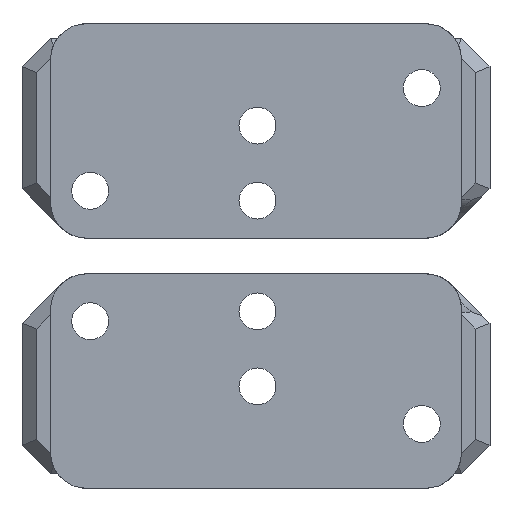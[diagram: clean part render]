
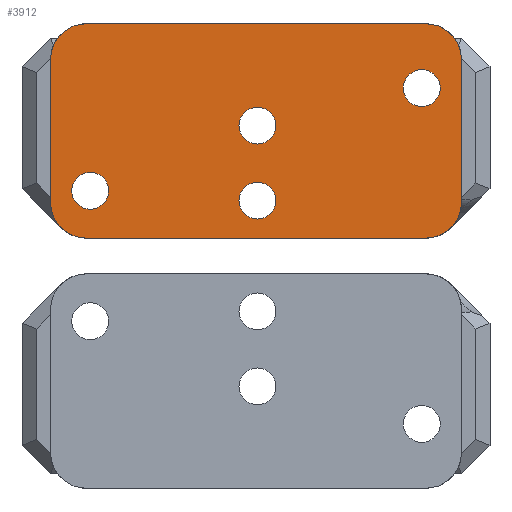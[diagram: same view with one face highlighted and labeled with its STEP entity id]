
A CAD part, left-side view. The second image highlights one B-rep face of the part: STEP entity #3912.
In plain terms, the highlighted planar face has unit normal (-1, 0, 0).
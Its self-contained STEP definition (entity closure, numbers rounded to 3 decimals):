
#127=FACE_BOUND('',#557,.T.);
#128=FACE_BOUND('',#558,.T.);
#129=FACE_BOUND('',#559,.T.);
#130=FACE_BOUND('',#560,.T.);
#176=PLANE('',#4163);
#335=FACE_OUTER_BOUND('',#556,.T.);
#556=EDGE_LOOP('',(#2889,#2890,#2891,#2892,#2893,#2894,#2895,#2896));
#557=EDGE_LOOP('',(#2897));
#558=EDGE_LOOP('',(#2898));
#559=EDGE_LOOP('',(#2899));
#560=EDGE_LOOP('',(#2900));
#802=LINE('',#5562,#1239);
#833=LINE('',#5825,#1270);
#855=LINE('',#5869,#1292);
#864=LINE('',#5893,#1301);
#1239=VECTOR('',#4474,10.);
#1270=VECTOR('',#4541,10.);
#1292=VECTOR('',#4569,10.);
#1301=VECTOR('',#4596,10.);
#1651=CIRCLE('',#4132,5.);
#1653=CIRCLE('',#4136,5.);
#1657=CIRCLE('',#4153,5.);
#1660=CIRCLE('',#4164,5.);
#1661=CIRCLE('',#4165,2.58);
#1662=CIRCLE('',#4166,2.58);
#1663=CIRCLE('',#4167,2.58);
#1664=CIRCLE('',#4168,2.58);
#1766=VERTEX_POINT('',#5554);
#1767=VERTEX_POINT('',#5556);
#1768=VERTEX_POINT('',#5560);
#1770=VERTEX_POINT('',#5566);
#1801=VERTEX_POINT('',#5822);
#1802=VERTEX_POINT('',#5824);
#1820=VERTEX_POINT('',#5862);
#1827=VERTEX_POINT('',#5892);
#1828=VERTEX_POINT('',#5895);
#1829=VERTEX_POINT('',#5897);
#1830=VERTEX_POINT('',#5899);
#1831=VERTEX_POINT('',#5901);
#2146=EDGE_CURVE('',#1767,#1766,#1651,.T.);
#2149=EDGE_CURVE('',#1766,#1768,#802,.T.);
#2152=EDGE_CURVE('',#1768,#1770,#1653,.T.);
#2198=EDGE_CURVE('',#1802,#1801,#833,.T.);
#2218=EDGE_CURVE('',#1801,#1820,#1657,.T.);
#2221=EDGE_CURVE('',#1820,#1767,#855,.T.);
#2233=EDGE_CURVE('',#1770,#1827,#864,.T.);
#2234=EDGE_CURVE('',#1827,#1802,#1660,.T.);
#2235=EDGE_CURVE('',#1828,#1828,#1661,.T.);
#2236=EDGE_CURVE('',#1829,#1829,#1662,.F.);
#2237=EDGE_CURVE('',#1830,#1830,#1663,.F.);
#2238=EDGE_CURVE('',#1831,#1831,#1664,.T.);
#2889=ORIENTED_EDGE('',*,*,#2198,.T.);
#2890=ORIENTED_EDGE('',*,*,#2218,.T.);
#2891=ORIENTED_EDGE('',*,*,#2221,.T.);
#2892=ORIENTED_EDGE('',*,*,#2146,.T.);
#2893=ORIENTED_EDGE('',*,*,#2149,.T.);
#2894=ORIENTED_EDGE('',*,*,#2152,.T.);
#2895=ORIENTED_EDGE('',*,*,#2233,.T.);
#2896=ORIENTED_EDGE('',*,*,#2234,.T.);
#2897=ORIENTED_EDGE('',*,*,#2235,.T.);
#2898=ORIENTED_EDGE('',*,*,#2236,.F.);
#2899=ORIENTED_EDGE('',*,*,#2237,.F.);
#2900=ORIENTED_EDGE('',*,*,#2238,.T.);
#3912=ADVANCED_FACE('',(#335,#127,#128,#129,#130),#176,.T.);
#4132=AXIS2_PLACEMENT_3D('',#5557,#4468,#4469);
#4136=AXIS2_PLACEMENT_3D('',#5568,#4480,#4481);
#4153=AXIS2_PLACEMENT_3D('',#5864,#4563,#4564);
#4163=AXIS2_PLACEMENT_3D('',#5891,#4594,#4595);
#4164=AXIS2_PLACEMENT_3D('',#5894,#4597,#4598);
#4165=AXIS2_PLACEMENT_3D('',#5896,#4599,#4600);
#4166=AXIS2_PLACEMENT_3D('',#5898,#4601,#4602);
#4167=AXIS2_PLACEMENT_3D('',#5900,#4603,#4604);
#4168=AXIS2_PLACEMENT_3D('',#5902,#4605,#4606);
#4468=DIRECTION('center_axis',(-1.,0.,0.));
#4469=DIRECTION('ref_axis',(0.,-0.707,0.707));
#4474=DIRECTION('',(0.,1.,0.));
#4480=DIRECTION('center_axis',(-1.,0.,0.));
#4481=DIRECTION('ref_axis',(0.,0.707,0.707));
#4541=DIRECTION('',(0.,-1.,0.));
#4563=DIRECTION('center_axis',(-1.,0.,0.));
#4564=DIRECTION('ref_axis',(0.,0.,-1.));
#4569=DIRECTION('',(0.,0.,1.));
#4594=DIRECTION('center_axis',(-1.,0.,0.));
#4595=DIRECTION('ref_axis',(0.,0.,
-1.));
#4596=DIRECTION('',(0.,0.,-1.));
#4597=DIRECTION('center_axis',(-1.,0.,0.));
#4598=DIRECTION('ref_axis',(0.,0.707,-0.707));
#4599=DIRECTION('center_axis',(1.,0.,0.));
#4600=DIRECTION('ref_axis',(0.,0.,1.));
#4601=DIRECTION('center_axis',(1.,0.,0.));
#4602=DIRECTION('ref_axis',(0.,0.,1.));
#4603=DIRECTION('center_axis',(1.,0.,0.));
#4604=DIRECTION('ref_axis',(0.,0.,1.));
#4605=DIRECTION('center_axis',(1.,0.,0.));
#4606=DIRECTION('ref_axis',(0.,0.,1.));
#5554=CARTESIAN_POINT('',(-26.,-23.75,30.));
#5556=CARTESIAN_POINT('',(-26.,-28.75,25.));
#5557=CARTESIAN_POINT('Origin',(-26.,-23.75,25.));
#5560=CARTESIAN_POINT('',(-26.,23.75,30.));
#5562=CARTESIAN_POINT('',(-26.,-28.75,30.));
#5566=CARTESIAN_POINT('',(-26.,28.75,25.));
#5568=CARTESIAN_POINT('Origin',(-26.,23.75,25.));
#5822=CARTESIAN_POINT('',(-26.,-23.75,0.));
#5824=CARTESIAN_POINT('',(-26.,23.75,0.));
#5825=CARTESIAN_POINT('',(-26.,28.75,0.));
#5862=CARTESIAN_POINT('',(-26.,-28.75,5.));
#5864=CARTESIAN_POINT('Origin',(-26.,-23.75,5.));
#5869=CARTESIAN_POINT('',(-26.,-28.75,0.));
#5891=CARTESIAN_POINT('Origin',(-26.,-0.2,5.25));
#5892=CARTESIAN_POINT('',(-26.,28.75,5.));
#5893=CARTESIAN_POINT('',(-26.,28.75,30.));
#5894=CARTESIAN_POINT('Origin',(-26.,23.75,5.));
#5895=CARTESIAN_POINT('',(-26.,-0.2,2.67));
#5896=CARTESIAN_POINT('Origin',(-26.,-0.2,5.25));
#5897=CARTESIAN_POINT('',(-26.,23.2,4.04));
#5898=CARTESIAN_POINT('Origin',(-26.,23.2,6.62));
#5899=CARTESIAN_POINT('',(-26.,-23.2,18.42));
#5900=CARTESIAN_POINT('Origin',(-26.,-23.2,21.));
#5901=CARTESIAN_POINT('',(-26.,-0.2,13.17));
#5902=CARTESIAN_POINT('Origin',(-26.,-0.2,15.75));
